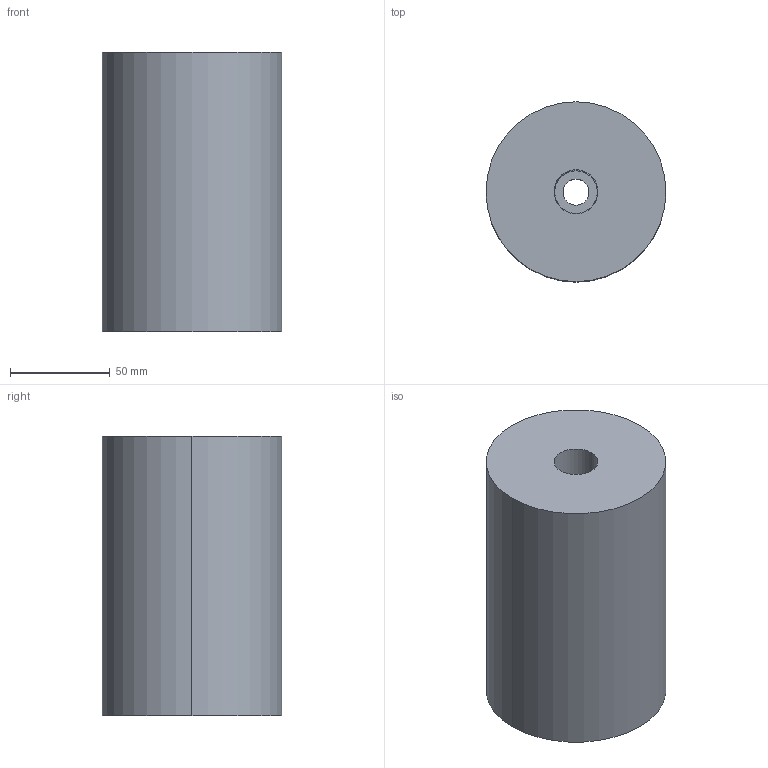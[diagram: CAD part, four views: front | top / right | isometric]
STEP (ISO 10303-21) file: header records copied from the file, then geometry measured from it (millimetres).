
FILE_DESCRIPTION(/* description */ (''),/* implementation_level */ '2;1');
FILE_NAME(/* name */ '3d_est90-140_07021_r00.stp',/* time_stamp */ '2011-01-10T14:15:39+09:00',/* author */ ('MISUMI'),/* organization */ (''),/* preprocessor_version */ 'ST-DEVELOPER v11',/* originating_system */ 'UGS - NX 5.0',/* authorisation */ '');
FILE_SCHEMA (('CONFIG_CONTROL_DESIGN'));
Length unit declared in the file: millimetre
Products named in the file (1): 3d_est90-140_07021_r00
Bounding box: 90 x 90 x 140 mm (x, y, z)
Volume: 848331.1 mm3; surface area: 65926.2 mm2
Topology: 2 solids, 2 shells, 19 faces, 38 edges, 24 vertices
Faces by surface type: cylinder 10, plane 5, cone 4
Entity records: 596 total; most frequent: DIRECTION 102, CARTESIAN_POINT 82, ORIENTED_EDGE 76, AXIS2_PLACEMENT_3D 44, EDGE_CURVE 38, EDGE_LOOP 24, VERTEX_POINT 24, CIRCLE 24
